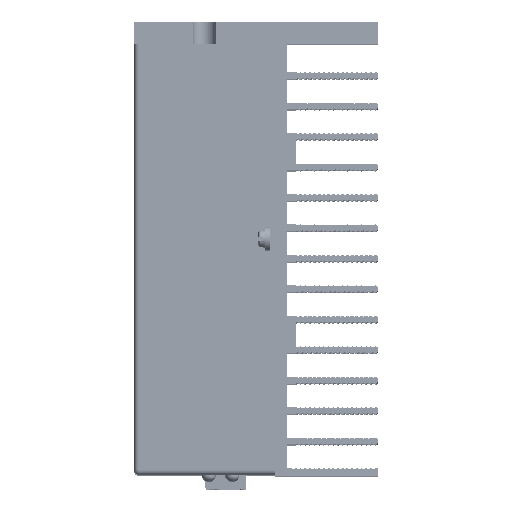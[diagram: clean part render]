
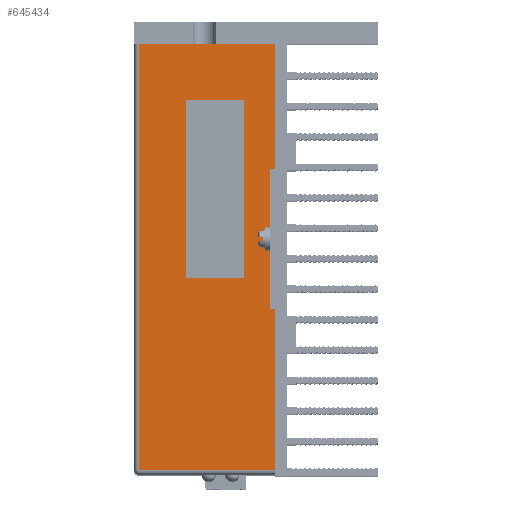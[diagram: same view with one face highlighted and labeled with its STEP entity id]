
A CAD part, top view. The second image highlights one B-rep face of the part: STEP entity #645434.
In plain terms, the highlighted planar face has unit normal (0, 0, 1).
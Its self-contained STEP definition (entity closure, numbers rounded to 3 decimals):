
#4625=DIRECTION('',(0.,1.,0.));
#4626=VECTOR('',#4625,34.35);
#4627=CARTESIAN_POINT('',(4.,-46.55,140.5));
#4628=LINE('',#4627,#4626);
#4641=DIRECTION('',(0.,1.,0.));
#4642=VECTOR('',#4641,26.65);
#4643=CARTESIAN_POINT('',(4.,17.8,140.5));
#4644=LINE('',#4643,#4642);
#222891=DIRECTION('',(1.,0.,0.));
#222892=VECTOR('',#222891,29.);
#222893=CARTESIAN_POINT('',(-25.,44.45,140.5));
#222894=LINE('',#222893,#222892);
#222903=DIRECTION('',(1.,0.,0.));
#222904=VECTOR('',#222903,12.4);
#222905=CARTESIAN_POINT('',(-15.,-5.5,140.5));
#222906=LINE('',#222905,#222904);
#222907=DIRECTION('',(0.,1.,0.));
#222908=VECTOR('',#222907,37.9);
#222909=CARTESIAN_POINT('',(-2.6,-5.5,140.5));
#222910=LINE('',#222909,#222908);
#222911=DIRECTION('',(-1.,0.,0.));
#222912=VECTOR('',#222911,12.4);
#222913=CARTESIAN_POINT('',(-2.6,32.4,140.5));
#222914=LINE('',#222913,#222912);
#222915=DIRECTION('',(0.,-1.,0.));
#222916=VECTOR('',#222915,37.9);
#222917=CARTESIAN_POINT('',(-15.,32.4,140.5));
#222918=LINE('',#222917,#222916);
#222919=DIRECTION('',(0.,1.,0.));
#222920=VECTOR('',#222919,91.);
#222921=CARTESIAN_POINT('',(-25.,-46.55,140.5));
#222922=LINE('',#222921,#222920);
#222923=DIRECTION('',(-1.,0.,0.));
#222924=VECTOR('',#222923,1.);
#222925=CARTESIAN_POINT('',(4.,17.8,140.5));
#222926=LINE('',#222925,#222924);
#222927=DIRECTION('',(0.,-1.,0.));
#222928=VECTOR('',#222927,30.);
#222929=CARTESIAN_POINT('',(3.,17.8,140.5));
#222930=LINE('',#222929,#222928);
#222931=DIRECTION('',(-1.,0.,0.));
#222932=VECTOR('',#222931,1.);
#222933=CARTESIAN_POINT('',(4.,-12.2,140.5));
#222934=LINE('',#222933,#222932);
#222935=DIRECTION('',(1.,0.,0.));
#222936=VECTOR('',#222935,29.);
#222937=CARTESIAN_POINT('',(-25.,-46.55,140.5));
#222938=LINE('',#222937,#222936);
#247787=CARTESIAN_POINT('',(4.,44.45,140.5));
#247789=VERTEX_POINT('',#247787);
#247895=CARTESIAN_POINT('',(4.,-12.2,140.5));
#247897=VERTEX_POINT('',#247895);
#247901=CARTESIAN_POINT('',(4.,17.8,140.5));
#247902=VERTEX_POINT('',#247901);
#247915=CARTESIAN_POINT('',(3.,17.8,140.5));
#247916=CARTESIAN_POINT('',(3.,-12.2,140.5));
#247917=VERTEX_POINT('',#247915);
#247918=VERTEX_POINT('',#247916);
#248467=CARTESIAN_POINT('',(-15.,-5.5,140.5));
#248468=CARTESIAN_POINT('',(-2.6,-5.5,140.5));
#248469=VERTEX_POINT('',#248467);
#248470=VERTEX_POINT('',#248468);
#248471=CARTESIAN_POINT('',(-2.6,32.4,140.5));
#248472=VERTEX_POINT('',#248471);
#248473=CARTESIAN_POINT('',(-15.,32.4,140.5));
#248474=VERTEX_POINT('',#248473);
#323642=CARTESIAN_POINT('',(-25.,44.45,140.5));
#323644=VERTEX_POINT('',#323642);
#323645=CARTESIAN_POINT('',(-25.,-46.55,140.5));
#323646=VERTEX_POINT('',#323645);
#323653=CARTESIAN_POINT('',(4.,-46.55,140.5));
#323654=VERTEX_POINT('',#323653);
#645406=CARTESIAN_POINT('',(-26.,-47.55,140.5));
#645407=DIRECTION('',(0.,0.,1.));
#645408=DIRECTION('',(0.,1.,0.));
#645409=AXIS2_PLACEMENT_3D('',#645406,#645407,#645408);
#645410=PLANE('',#645409);
#645411=ORIENTED_EDGE('',*,*,#645356,.T.);
#645412=ORIENTED_EDGE('',*,*,#645374,.T.);
#645413=ORIENTED_EDGE('',*,*,#326793,.F.);
#645415=ORIENTED_EDGE('',*,*,#645414,.T.);
#645416=ORIENTED_EDGE('',*,*,#326952,.T.);
#645418=ORIENTED_EDGE('',*,*,#645417,.F.);
#645419=ORIENTED_EDGE('',*,*,#326785,.F.);
#645421=ORIENTED_EDGE('',*,*,#645420,.F.);
#645422=EDGE_LOOP('',(#645411,#645412,#645413,#645415,#645416,#645418,#645419,
#645421));
#645423=FACE_OUTER_BOUND('',#645422,.F.);
#645425=ORIENTED_EDGE('',*,*,#645424,.T.);
#645427=ORIENTED_EDGE('',*,*,#645426,.T.);
#645429=ORIENTED_EDGE('',*,*,#645428,.T.);
#645431=ORIENTED_EDGE('',*,*,#645430,.T.);
#645432=EDGE_LOOP('',(#645425,#645427,#645429,#645431));
#645433=FACE_BOUND('',#645432,.F.);
#645434=ADVANCED_FACE('',(#645423,#645433),#645410,.T.);
#326785=EDGE_CURVE('',#323654,#247897,#4628,.T.);
#326793=EDGE_CURVE('',#247902,#247789,#4644,.T.);
#326952=EDGE_CURVE('',#247917,#247918,#222930,.T.);
#645356=EDGE_CURVE('',#323646,#323644,#222922,.T.);
#645374=EDGE_CURVE('',#323644,#247789,#222894,.T.);
#645414=EDGE_CURVE('',#247902,#247917,#222926,.T.);
#645417=EDGE_CURVE('',#247897,#247918,#222934,.T.);
#645420=EDGE_CURVE('',#323646,#323654,#222938,.T.);
#645424=EDGE_CURVE('',#248469,#248470,#222906,.T.);
#645426=EDGE_CURVE('',#248470,#248472,#222910,.T.);
#645428=EDGE_CURVE('',#248472,#248474,#222914,.T.);
#645430=EDGE_CURVE('',#248474,#248469,#222918,.T.);
